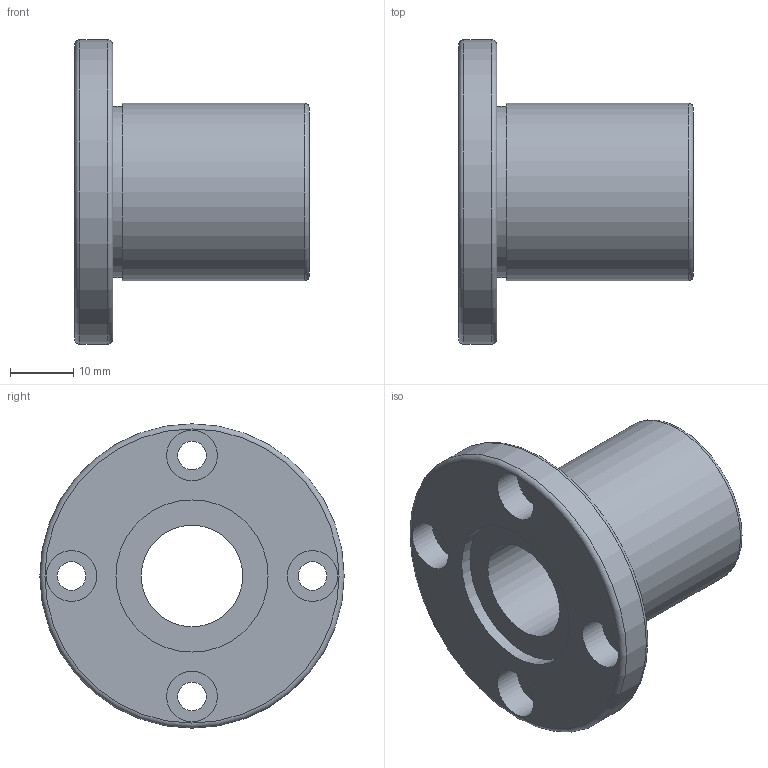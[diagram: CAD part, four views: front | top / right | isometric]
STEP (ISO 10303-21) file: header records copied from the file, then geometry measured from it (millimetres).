
FILE_DESCRIPTION( ( 'Unknown' ), '1' );
FILE_NAME( 'D:/累诀/己绕皋墨飘肺葱胶/11-04-06_档搁累己/01_府聪绢何教/LMF/LMF 16.stp', 'Unknown', ( 'Unknown' ), ( 'Unknown' ), 'PSStep 11.0', 'Unknown', ' ' );
FILE_SCHEMA( ( 'AUTOMOTIVE_DESIGN { 1 0 10303 214 1 1 1 1 }' ) );
Length unit declared in the file: millimetre
Products named in the file (1): 1
Bounding box: 37 x 48 x 48 mm (x, y, z)
Volume: 20472.2 mm3; surface area: 9154.1 mm2
Topology: 1 solids, 1 shells, 27 faces, 52 edges, 35 vertices
Faces by surface type: cylinder 14, plane 10, torus 3
Full cylindrical faces by diameter (mm): 4.5 x4, 8 x4, 16 x1, 24 x2, 27 x1, 28 x1, 48 x1
Entity records: 836 total; most frequent: DIRECTION 118, CARTESIAN_POINT 90, EDGE_LOOP 62, ORIENTED_EDGE 62, AXIS2_PLACEMENT_3D 59, FACE_OUTER_BOUND 44, EDGE_CURVE 31, VERTEX_POINT 31
